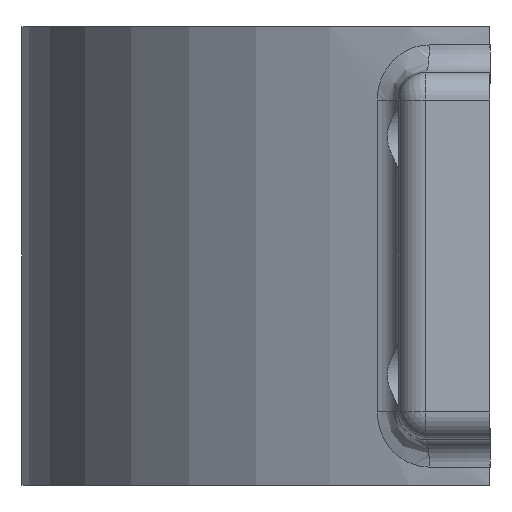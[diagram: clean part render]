
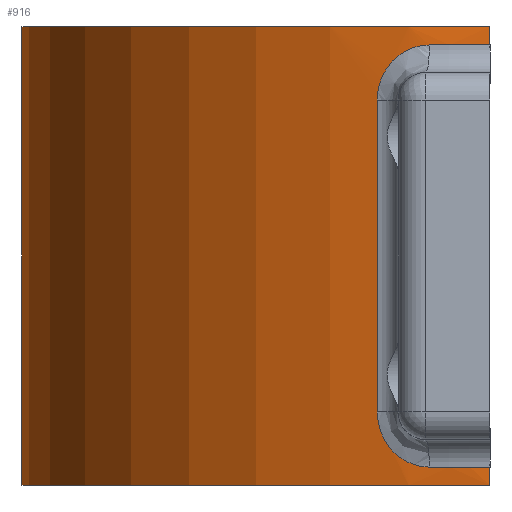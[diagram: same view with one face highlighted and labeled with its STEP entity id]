
A CAD part, left-side view. The second image highlights one B-rep face of the part: STEP entity #916.
In plain terms, the highlighted cylindrical face has radius 51 mm (diameter 102 mm), a partial arc.
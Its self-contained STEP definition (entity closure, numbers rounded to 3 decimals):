
#52=LINE('',#1468,#112);
#65=LINE('',#1663,#125);
#71=LINE('',#1747,#131);
#72=LINE('',#1750,#132);
#73=LINE('',#1752,#133);
#74=LINE('',#1755,#134);
#112=VECTOR('',#1117,10.);
#125=VECTOR('',#1178,10.);
#131=VECTOR('',#1200,10.);
#132=VECTOR('',#1203,10.);
#133=VECTOR('',#1204,10.);
#134=VECTOR('',#1207,10.);
#175=CYLINDRICAL_SURFACE('',#1019,51.);
#194=B_SPLINE_CURVE_WITH_KNOTS('',3,(#1445,#1446,#1447,#1448,#1449,#1450),
 .UNSPECIFIED.,.F.,.F.,(4,1,1,4),(0.,0.272,0.543,
0.95),.UNSPECIFIED.);
#199=B_SPLINE_CURVE_WITH_KNOTS('',3,(#1538,#1539,#1540,#1541,#1542,#1543),
 .UNSPECIFIED.,.F.,.F.,(4,1,1,4),(-4.739,-4.332,-4.06,
-3.789),.UNSPECIFIED.);
#202=B_SPLINE_CURVE_WITH_KNOTS('',3,(#1634,#1635,#1636,#1637,#1638,#1639),
 .UNSPECIFIED.,.F.,.F.,(4,1,1,4),(0.,0.407,0.679,
0.95),.UNSPECIFIED.);
#206=B_SPLINE_CURVE_WITH_KNOTS('',3,(#1727,#1728,#1729,#1730,#1731,#1732),
 .UNSPECIFIED.,.F.,.F.,(4,1,1,4),(-3.789,-3.517,-3.246,
-2.839),.UNSPECIFIED.);
#228=FACE_OUTER_BOUND('',#286,.T.);
#286=EDGE_LOOP('',(#697,#698,#699,#700,#701,#702,#703,#704,#705,#706,#707,
#708,#709,#710,#711,#712));
#336=CIRCLE('',#982,51.);
#343=CIRCLE('',#991,51.);
#354=CIRCLE('',#1009,51.);
#360=CIRCLE('',#1017,51.);
#361=CIRCLE('',#1020,51.);
#362=CIRCLE('',#1021,51.);
#400=VERTEX_POINT('',#1399);
#401=VERTEX_POINT('',#1401);
#404=VERTEX_POINT('',#1443);
#408=VERTEX_POINT('',#1466);
#414=VERTEX_POINT('',#1536);
#416=VERTEX_POINT('',#1552);
#426=VERTEX_POINT('',#1587);
#429=VERTEX_POINT('',#1592);
#430=VERTEX_POINT('',#1625);
#434=VERTEX_POINT('',#1662);
#438=VERTEX_POINT('',#1718);
#440=VERTEX_POINT('',#1734);
#444=VERTEX_POINT('',#1746);
#445=VERTEX_POINT('',#1748);
#446=VERTEX_POINT('',#1751);
#447=VERTEX_POINT('',#1753);
#482=EDGE_CURVE('',#400,#401,#336,.T.);
#487=EDGE_CURVE('',#404,#400,#194,.T.);
#491=EDGE_CURVE('',#408,#404,#52,.T.);
#498=EDGE_CURVE('',#414,#408,#199,.T.);
#501=EDGE_CURVE('',#416,#414,#343,.T.);
#521=EDGE_CURVE('',#429,#426,#354,.T.);
#524=EDGE_CURVE('',#426,#430,#202,.T.);
#527=EDGE_CURVE('',#430,#434,#65,.T.);
#534=EDGE_CURVE('',#434,#438,#206,.T.);
#537=EDGE_CURVE('',#438,#440,#360,.T.);
#541=EDGE_CURVE('',#444,#416,#71,.T.);
#542=EDGE_CURVE('',#445,#444,#361,.T.);
#543=EDGE_CURVE('',#445,#440,#72,.T.);
#544=EDGE_CURVE('',#429,#446,#73,.T.);
#545=EDGE_CURVE('',#447,#446,#362,.T.);
#546=EDGE_CURVE('',#401,#447,#74,.T.);
#697=ORIENTED_EDGE('',*,*,#501,.F.);
#698=ORIENTED_EDGE('',*,*,#541,.F.);
#699=ORIENTED_EDGE('',*,*,#542,.F.);
#700=ORIENTED_EDGE('',*,*,#543,.T.);
#701=ORIENTED_EDGE('',*,*,#537,.F.);
#702=ORIENTED_EDGE('',*,*,#534,.F.);
#703=ORIENTED_EDGE('',*,*,#527,.F.);
#704=ORIENTED_EDGE('',*,*,#524,.F.);
#705=ORIENTED_EDGE('',*,*,#521,.F.);
#706=ORIENTED_EDGE('',*,*,#544,.T.);
#707=ORIENTED_EDGE('',*,*,#545,.F.);
#708=ORIENTED_EDGE('',*,*,#546,.F.);
#709=ORIENTED_EDGE('',*,*,#482,.F.);
#710=ORIENTED_EDGE('',*,*,#487,.F.);
#711=ORIENTED_EDGE('',*,*,#491,.F.);
#712=ORIENTED_EDGE('',*,*,#498,.F.);
#916=ADVANCED_FACE('',(#228),#175,.T.);
#982=AXIS2_PLACEMENT_3D('',#1402,#1104,#1105);
#991=AXIS2_PLACEMENT_3D('',#1554,#1126,#1127);
#1009=AXIS2_PLACEMENT_3D('',#1594,#1171,#1172);
#1017=AXIS2_PLACEMENT_3D('',#1738,#1191,#1192);
#1019=AXIS2_PLACEMENT_3D('',#1745,#1198,#1199);
#1020=AXIS2_PLACEMENT_3D('',#1749,#1201,#1202);
#1021=AXIS2_PLACEMENT_3D('',#1754,#1205,#1206);
#1104=DIRECTION('center_axis',(0.,0.,-1.));
#1105=DIRECTION('ref_axis',(0.998,0.069,0.));
#1117=DIRECTION('',(0.,0.,1.));
#1126=DIRECTION('center_axis',(0.,0.,1.));
#1127=DIRECTION('ref_axis',(0.992,0.13,0.));
#1171=DIRECTION('center_axis',(0.,0.,-1.));
#1172=DIRECTION('ref_axis',(-0.998,0.069,0.));
#1178=DIRECTION('',(0.,0.,-1.));
#1191=DIRECTION('center_axis',(0.,0.,1.));
#1192=DIRECTION('ref_axis',(-0.992,0.13,0.));
#1198=DIRECTION('center_axis',(0.,0.,1.));
#1199=DIRECTION('ref_axis',(1.,0.,0.));
#1200=DIRECTION('',(0.,0.,1.));
#1201=DIRECTION('center_axis',(0.,0.,-1.));
#1202=DIRECTION('ref_axis',(1.,0.,0.));
#1203=DIRECTION('',(0.,0.,1.));
#1204=DIRECTION('',(0.,0.,1.));
#1205=DIRECTION('center_axis',(0.,0.,1.));
#1206=DIRECTION('ref_axis',(1.,0.,0.));
#1207=DIRECTION('',(0.,0.,1.));
#1399=CARTESIAN_POINT('',(50.57,6.611,23.));
#1401=CARTESIAN_POINT('',(51.,0.,23.));
#1402=CARTESIAN_POINT('Origin',(0.,0.,23.));
#1443=CARTESIAN_POINT('',(49.5,12.278,17.));
#1445=CARTESIAN_POINT('Ctrl Pts',(49.5,12.278,17.));
#1446=CARTESIAN_POINT('Ctrl Pts',(49.5,12.278,17.905));
#1447=CARTESIAN_POINT('Ctrl Pts',(49.6,11.881,19.711));
#1448=CARTESIAN_POINT('Ctrl Pts',(50.036,9.979,22.219));
#1449=CARTESIAN_POINT('Ctrl Pts',(50.403,7.882,23.));
#1450=CARTESIAN_POINT('Ctrl Pts',(50.57,6.611,23.));
#1466=CARTESIAN_POINT('',(49.5,12.278,-17.));
#1468=CARTESIAN_POINT('',(49.5,12.278,0.));
#1536=CARTESIAN_POINT('',(50.57,6.611,-23.));
#1538=CARTESIAN_POINT('Ctrl Pts',(50.57,6.611,-23.));
#1539=CARTESIAN_POINT('Ctrl Pts',(50.403,7.882,-23.));
#1540=CARTESIAN_POINT('Ctrl Pts',(50.036,9.979,-22.219));
#1541=CARTESIAN_POINT('Ctrl Pts',(49.6,11.881,-19.711));
#1542=CARTESIAN_POINT('Ctrl Pts',(49.5,12.278,-17.905));
#1543=CARTESIAN_POINT('Ctrl Pts',(49.5,12.278,-17.));
#1552=CARTESIAN_POINT('',(51.,0.,-23.));
#1554=CARTESIAN_POINT('Origin',(0.,0.,-23.));
#1587=CARTESIAN_POINT('',(-50.57,6.611,23.));
#1592=CARTESIAN_POINT('',(-51.,0.,23.));
#1594=CARTESIAN_POINT('Origin',(0.,0.,23.));
#1625=CARTESIAN_POINT('',(-49.5,12.278,17.));
#1634=CARTESIAN_POINT('Ctrl Pts',(-50.57,6.611,23.));
#1635=CARTESIAN_POINT('Ctrl Pts',(-50.403,7.882,23.));
#1636=CARTESIAN_POINT('Ctrl Pts',(-50.036,9.979,22.219));
#1637=CARTESIAN_POINT('Ctrl Pts',(-49.6,11.881,19.711));
#1638=CARTESIAN_POINT('Ctrl Pts',(-49.5,12.278,17.905));
#1639=CARTESIAN_POINT('Ctrl Pts',(-49.5,12.278,17.));
#1662=CARTESIAN_POINT('',(-49.5,12.278,-17.));
#1663=CARTESIAN_POINT('',(-49.5,12.278,0.));
#1718=CARTESIAN_POINT('',(-50.57,6.611,-23.));
#1727=CARTESIAN_POINT('Ctrl Pts',(-49.5,12.278,-17.));
#1728=CARTESIAN_POINT('Ctrl Pts',(-49.5,12.278,-17.905));
#1729=CARTESIAN_POINT('Ctrl Pts',(-49.6,11.881,-19.711));
#1730=CARTESIAN_POINT('Ctrl Pts',(-50.036,9.979,-22.219));
#1731=CARTESIAN_POINT('Ctrl Pts',(-50.403,7.882,-23.));
#1732=CARTESIAN_POINT('Ctrl Pts',(-50.57,6.611,-23.));
#1734=CARTESIAN_POINT('',(-51.,0.,-23.));
#1738=CARTESIAN_POINT('Origin',(0.,0.,-23.));
#1745=CARTESIAN_POINT('Origin',(0.,0.,0.));
#1746=CARTESIAN_POINT('',(51.,0.,-25.));
#1747=CARTESIAN_POINT('',(51.,0.,0.));
#1748=CARTESIAN_POINT('',(-51.,0.,-25.));
#1749=CARTESIAN_POINT('Origin',(0.,0.,-25.));
#1750=CARTESIAN_POINT('',(-51.,0.,0.));
#1751=CARTESIAN_POINT('',(-51.,0.,25.));
#1752=CARTESIAN_POINT('',(-51.,0.,0.));
#1753=CARTESIAN_POINT('',(51.,0.,25.));
#1754=CARTESIAN_POINT('Origin',(0.,0.,25.));
#1755=CARTESIAN_POINT('',(51.,0.,0.));
